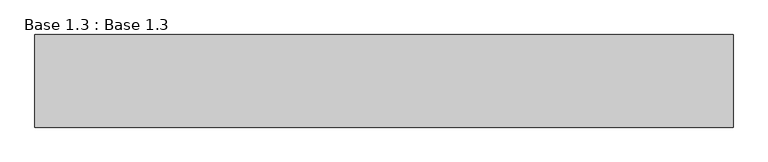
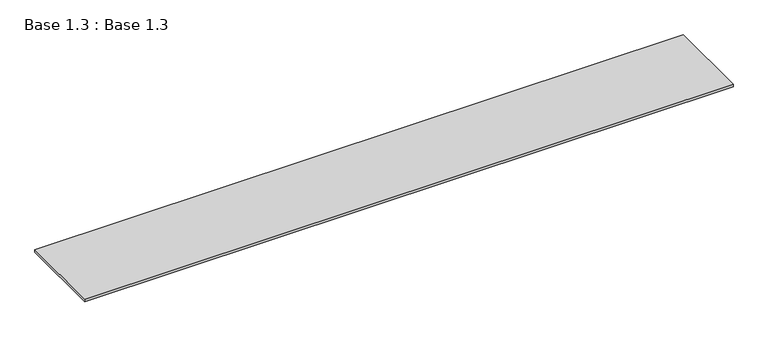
"""IFC4 building model written with IfcOpenShell, lengths in millimetres: furniture geometry, Base 1.3 : Base 1.3."""

from ifc_helpers import new_model, si_unit, frame, origin, place, context, project, spatial, polyline, outline, extrude, source, transform, mapped, element, save


def base_1_3_base_1_3_6f1b118f(model_context):
    return source(origin(), model_context, "Body", "SweptSolid", [
        extrude(outline(polyline([(-3242.3834094, -1642.0637549), (-3242.3834094, -1042.0637549), (1277.6165906, -1042.0637549), (1277.6165906, -1642.0637549), (-3242.3834094, -1642.0637549)])), frame((0.0, 0.0, 150.0), z_axis=(0.0, 0.0, 1.0), x_axis=(1.0, 0.0, 0.0)), (0.0, 0.0, 1.0), 20.0),
    ])


if __name__ == "__main__":
    model = new_model("IFC4")
    model_context = context("Model", 3, world=origin())
    ifc_project = project(units=[si_unit("LENGTHUNIT", "METRE", prefix="MILLI")], contexts=[model_context])
    site = spatial("IfcSite", under=ifc_project)
    building = spatial("IfcBuilding", under=site)
    placement = place(None, origin())
    base_1_3_base_1_3_shape = base_1_3_base_1_3_6f1b118f(model_context)
    element("IfcFurniture", 1, ObjectType="Base 1.3 : Base 1.3", at=placement, inside=building, context=model_context, shape_type="MappedRepresentation", body=[
        mapped(base_1_3_base_1_3_shape, transform((0.0, 0.0, 0.0), x_axis=(1.0, 0.0, 0.0), y_axis=(0.0, 1.0, 0.0), z_axis=(0.0, 0.0, 1.0))),
    ])
    save(model, "model.ifc")
